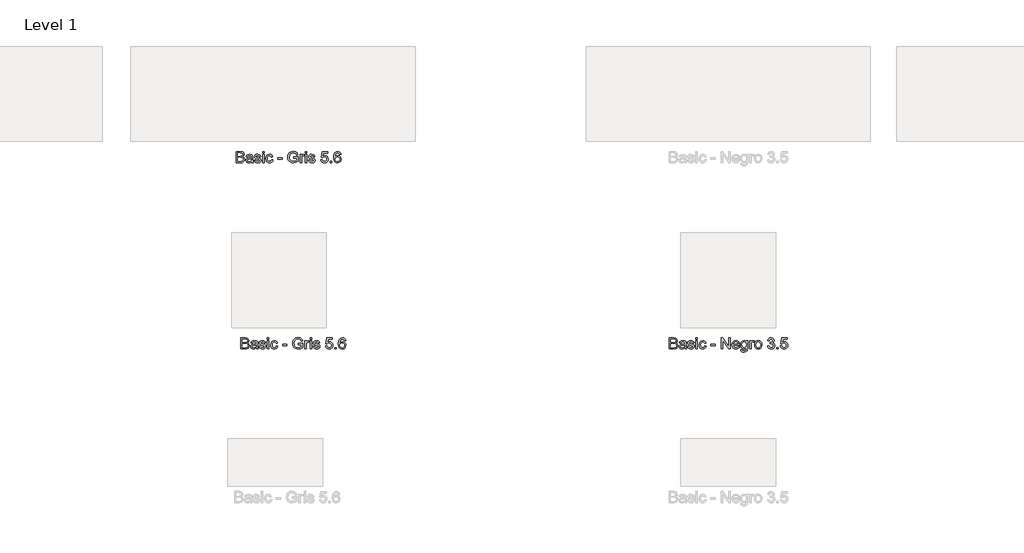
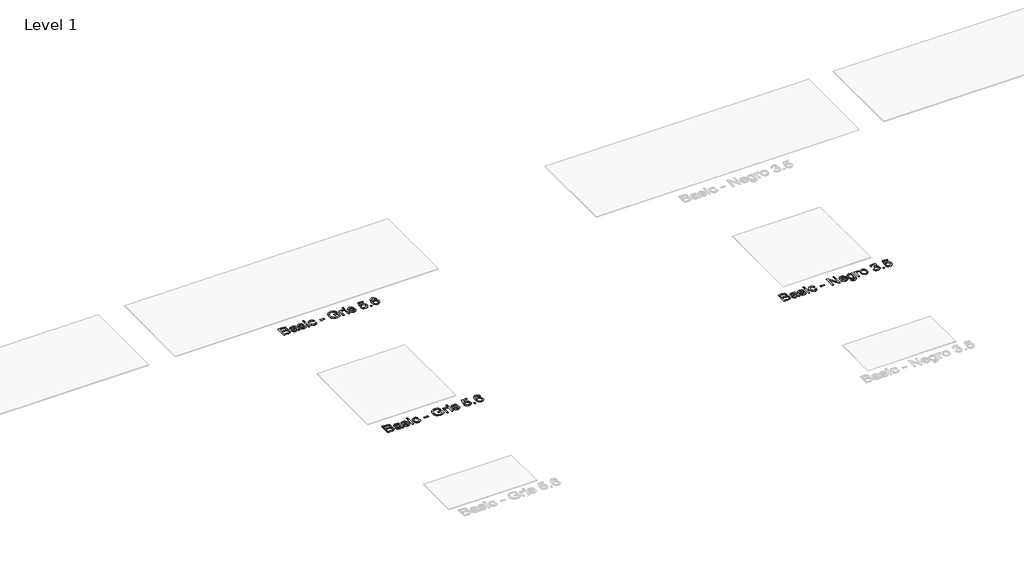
# One storey, part 59 of 80: 3 proxies.
"""IFC4 building model written with IfcOpenShell, lengths in millimetres."""

from ifc_helpers import new_model, si_unit, origin, origin_with_axes, place, context, project, spatial, polyline, outline, extrude, element, save

model = new_model("IFC4")

# Units and contexts
model_context = context("Model", 3, world=origin())
ifc_project = project(units=[si_unit("LENGTHUNIT", "METRE", prefix="MILLI")], contexts=[model_context])

# Site, building, storey
site = spatial("IfcSite", under=ifc_project)
building = spatial("IfcBuilding", under=site)
storey = spatial("IfcBuildingStorey", under=building, Name="Level 1", Elevation=0.0)

# Proxies
placement = place(None, origin())
element("IfcBuildingElementProxy", 1, Name="24\" Arial", ObjectType="24\" Arial", at=placement, inside=storey, context=model_context, shape_type="SweptSolid", body=[
    extrude(outline(polyline([(-15595.5848523, 19224.0250725), (-15595.5848523, 19342.1789187), (-15550.4983138, 19342.1789187), (-15528.416583, 19338.7029571), (-15515.3781215, 19328.0154571), (-15510.6617753, 19312.9000725), (-15514.6281215, 19299.0971879), (-15526.6136984, 19288.6404571), (-15512.0608138, 19277.6212264), (-15506.9694676, 19259.2462264), (-15510.4454292, 19243.3664187), (-15519.0560061, 19232.0587264), (-15531.9069676, 19226.0587264), (-15550.8444676, 19224.0250725), (-15595.5848523, 19224.0250725)]), holes=[polyline([(-15580.8156215, 19238.7943033), (-15550.52716, 19238.7943033), (-15539.5656215, 19239.3712264), (-15530.291583, 19242.5875725), (-15524.1473523, 19249.1500725), (-15521.7386984, 19259.1019956), (-15524.5656215, 19270.5827648), (-15533.7242753, 19277.4337264), (-15551.9694676, 19279.4096879), (-15580.8156215, 19279.4096879), (-15580.8156215, 19238.7943033)]), polyline([(-15580.8156215, 19294.1789187), (-15553.8444676, 19294.1789187), (-15538.0944676, 19295.4481494), (-15528.6185061, 19300.9144956), (-15525.4310061, 19310.5346879), (-15528.40216, 19320.1693033), (-15536.9117753, 19325.8664187), (-15555.8925446, 19327.4096879), (-15580.8156215, 19327.4096879), (-15580.8156215, 19294.1789187)])]), origin_with_axes(), (0.0, 0.0, 1.0), 2.0),
    extrude(outline(polyline([(-15433.1233138, 19235.1019956), (-15447.4454292, 19225.0923802), (-15463.2675446, 19222.1789187), (-15475.6100926, 19223.9313225), (-15484.71466, 19229.188534), (-15490.3288426, 19237.1717071), (-15492.2002369, 19247.1019956), (-15489.3733138, 19258.7846879), (-15481.9454292, 19267.2654571), (-15471.604083, 19272.111611), (-15458.8252369, 19274.3327648), (-15433.2098523, 19279.4096879), (-15433.1233138, 19282.6981494), (-15437.1906215, 19293.6019956), (-15453.5175446, 19297.8712264), (-15468.4598523, 19295.0298802), (-15475.5848523, 19284.9481494), (-15490.354083, 19286.7943033), (-15483.96466, 19301.2173802), (-15471.0992753, 19309.6693033), (-15451.6136984, 19312.6404571), (-15433.71466, 19310.0154571), (-15423.604083, 19303.424111), (-15419.0752369, 19293.4000725), (-15418.354083, 19280.4769956), (-15418.354083, 19262.1019956), (-15417.604083, 19236.4433417), (-15414.6617753, 19224.0250725), (-15429.4310061, 19224.0250725), (-15433.1233138, 19235.1019956)]), holes=[polyline([(-15433.1233138, 19264.6404571), (-15456.9502369, 19260.111611), (-15469.6569676, 19257.7173802), (-15475.4117753, 19253.8231494), (-15477.4310061, 19248.1404571), (-15473.0319676, 19240.1500725), (-15460.1233138, 19236.9481494), (-15445.1810061, 19240.4818033), (-15435.5463907, 19249.0346879), (-15433.2098523, 19260.4577648), (-15433.1233138, 19264.6404571)])]), origin_with_axes(), (0.0, 0.0, 1.0), 2.0),
    extrude(outline(polyline([(-15403.5848523, 19249.8712264), (-15388.8156215, 19251.7173802), (-15381.979083, 19240.7558417), (-15366.3156215, 19236.9481494), (-15351.2579292, 19240.438534), (-15346.354083, 19248.6308417), (-15351.2867753, 19255.2654571), (-15366.4886984, 19259.4769956), (-15388.729083, 19266.7029571), (-15398.4358138, 19275.1404571), (-15401.7386984, 19287.0539187), (-15399.0848523, 19298.0587264), (-15391.8444676, 19306.4673802), (-15382.4550446, 19310.8375725), (-15369.7483138, 19312.6404571), (-15351.77716, 19309.7414187), (-15340.354083, 19301.8952648), (-15335.27716, 19288.6404571), (-15350.0463907, 19286.7943033), (-15355.5992753, 19294.9433417), (-15368.5944676, 19297.8712264), (-15382.729083, 19295.0731494), (-15386.9694676, 19288.5539187), (-15385.2098523, 19284.2558417), (-15379.7002369, 19280.9962264), (-15366.979083, 19277.8519956), (-15345.3011984, 19270.9000725), (-15335.2338907, 19263.0250725), (-15331.5848523, 19250.188534), (-15335.8685061, 19236.0539187), (-15348.229083, 19225.799111), (-15366.5175446, 19222.1789187), (-15381.4093715, 19223.924111), (-15392.27716, 19229.1596879), (-15399.5319676, 19237.8279571), (-15403.5848523, 19249.8712264)])), origin_with_axes(), (0.0, 0.0, 1.0), 2.0),
    extrude(outline(polyline([(-15314.9694676, 19224.0250725), (-15314.9694676, 19310.7943033), (-15300.2002369, 19310.7943033), (-15300.2002369, 19224.0250725), (-15314.9694676, 19224.0250725)])), origin_with_axes(), (0.0, 0.0, 1.0), 2.0),
    extrude(outline(polyline([(-15314.9694676, 19327.4096879), (-15314.9694676, 19342.1789187), (-15300.2002369, 19342.1789187), (-15300.2002369, 19327.4096879), (-15314.9694676, 19327.4096879)])), origin_with_axes(), (0.0, 0.0, 1.0), 2.0),
    extrude(outline(polyline([(-15222.6617753, 19255.4096879), (-15207.8925446, 19253.563534), (-15212.010333, 19240.4277167), (-15219.7483138, 19230.501034), (-15230.3781215, 19224.2594475), (-15243.1713907, 19222.1789187), (-15258.8817273, 19225.0815629), (-15271.166583, 19233.7894956), (-15279.0956696, 19247.9205052), (-15281.7386984, 19267.0923802), (-15277.2242753, 19291.626034), (-15271.52716, 19300.8243514), (-15263.46466, 19307.3904571), (-15243.3733138, 19312.6404571), (-15230.8937465, 19310.8375725), (-15220.916583, 19305.4289187), (-15213.7591311, 19296.7029571), (-15209.7386984, 19284.9481494), (-15224.5079292, 19283.1019956), (-15231.3588907, 19294.1644956), (-15243.2579292, 19297.8712264), (-15252.8024003, 19296.0467071), (-15260.3781215, 19290.5731494), (-15265.3216311, 19281.1548802), (-15266.9694676, 19267.4962264), (-15265.3576888, 19253.6536783), (-15260.5223523, 19244.2029571), (-15253.0836503, 19238.7618514), (-15243.6617753, 19236.9481494), (-15229.7435061, 19241.4769956), (-15222.6617753, 19255.4096879)])), origin_with_axes(), (0.0, 0.0, 1.0), 2.0),
    extrude(outline(polyline([(-15156.2002369, 19259.1019956), (-15156.2002369, 19273.8712264), (-15110.0463907, 19273.8712264), (-15110.0463907, 19259.1019956), (-15156.2002369, 19259.1019956)])), origin_with_axes(), (0.0, 0.0, 1.0), 2.0),
    extrude(outline(polyline([(-14990.0463907, 19270.1789187), (-14990.0463907, 19284.9481494), (-14942.0463907, 19284.9481494), (-14942.0463907, 19240.7846879), (-14965.7435061, 19226.8519956), (-14990.7963907, 19222.1789187), (-15007.3649003, 19224.0358898), (-15022.33966, 19229.6068033), (-15034.7795638, 19238.6969475), (-15043.7435061, 19251.111611), (-15049.1629773, 19266.0034379), (-15050.9694676, 19282.5250725), (-15049.1701888, 19299.1656975), (-15043.7723523, 19314.6452648), (-15034.9995157, 19327.6296398), (-15023.0752369, 19336.7846879), (-15008.5511984, 19342.2149764), (-14991.979083, 19344.0250725), (-14968.8733138, 19339.8279571), (-14952.6761984, 19328.1452648), (-14943.7483138, 19308.6019956), (-14957.3636984, 19304.7654571), (-14964.0992753, 19318.424111), (-14975.6088907, 19326.299111), (-14992.2098523, 19329.2558417), (-15011.1185061, 19326.0683417), (-15023.9838907, 19317.7029571), (-15031.5848523, 19306.3231494), (-15036.2002369, 19283.1308417), (-15034.8120157, 19269.0070437), (-15030.6473523, 19257.3856494), (-15023.8324484, 19248.3495917), (-15014.4935061, 19241.9818033), (-14991.979083, 19236.9481494), (-14971.7723523, 19240.7414187), (-14956.8156215, 19248.8327648), (-14956.8156215, 19270.1789187), (-14990.0463907, 19270.1789187)])), origin_with_axes(), (0.0, 0.0, 1.0), 2.0),
    extrude(outline(polyline([(-14919.8925446, 19224.0250725), (-14919.8925446, 19310.7943033), (-14906.9694676, 19310.7943033), (-14906.9694676, 19297.9577648), (-14897.7963907, 19309.7846879), (-14888.5656215, 19312.6404571), (-14873.7386984, 19308.0827648), (-14878.6713907, 19294.8423802), (-14889.0560061, 19297.8712264), (-14897.4069676, 19294.9577648), (-14902.729083, 19286.8808417), (-14905.1233138, 19269.6308417), (-14905.1233138, 19224.0250725), (-14919.8925446, 19224.0250725)])), origin_with_axes(), (0.0, 0.0, 1.0), 2.0),
    extrude(outline(polyline([(-14864.5079292, 19327.4096879), (-14864.5079292, 19342.1789187), (-14849.7386984, 19342.1789187), (-14849.7386984, 19327.4096879), (-14864.5079292, 19327.4096879)])), origin_with_axes(), (0.0, 0.0, 1.0), 2.0),
    extrude(outline(polyline([(-14864.5079292, 19224.0250725), (-14864.5079292, 19310.7943033), (-14849.7386984, 19310.7943033), (-14849.7386984, 19224.0250725), (-14864.5079292, 19224.0250725)])), origin_with_axes(), (0.0, 0.0, 1.0), 2.0),
    extrude(outline(polyline([(-14833.1233138, 19249.8712264), (-14818.354083, 19251.7173802), (-14811.5175446, 19240.7558417), (-14795.854083, 19236.9481494), (-14780.7963907, 19240.438534), (-14775.8925446, 19248.6308417), (-14780.8252369, 19255.2654571), (-14796.02716, 19259.4769956), (-14818.2675446, 19266.7029571), (-14827.9742753, 19275.1404571), (-14831.27716, 19287.0539187), (-14828.6233138, 19298.0587264), (-14821.3829292, 19306.4673802), (-14811.9935061, 19310.8375725), (-14799.2867753, 19312.6404571), (-14781.3156215, 19309.7414187), (-14769.8925446, 19301.8952648), (-14764.8156215, 19288.6404571), (-14779.5848523, 19286.7943033), (-14785.1377369, 19294.9433417), (-14798.1329292, 19297.8712264), (-14812.2675446, 19295.0731494), (-14816.5079292, 19288.5539187), (-14814.7483138, 19284.2558417), (-14809.2386984, 19280.9962264), (-14796.5175446, 19277.8519956), (-14774.83966, 19270.9000725), (-14764.7723523, 19263.0250725), (-14761.1233138, 19250.188534), (-14765.4069676, 19236.0539187), (-14777.7675446, 19225.799111), (-14796.0560061, 19222.1789187), (-14810.947833, 19223.924111), (-14821.8156215, 19229.1596879), (-14829.0704292, 19237.8279571), (-14833.1233138, 19249.8712264)])), origin_with_axes(), (0.0, 0.0, 1.0), 2.0),
    extrude(outline(polyline([(-14702.0463907, 19255.4096879), (-14687.27716, 19257.2558417), (-14679.8348523, 19242.0394956), (-14664.40216, 19236.9481494), (-14653.8156215, 19238.7185821), (-14645.8829292, 19244.0298802), (-14640.9286023, 19252.2690629), (-14639.27716, 19262.8231494), (-14640.824035, 19272.7606494), (-14645.46466, 19280.361611), (-14653.2350926, 19285.1861302), (-14664.1713907, 19286.7943033), (-14677.1377369, 19284.2269956), (-14685.4310061, 19277.563534), (-14700.2002369, 19279.4096879), (-14687.27716, 19340.3327648), (-14630.0463907, 19340.3327648), (-14630.0463907, 19325.563534), (-14675.3348523, 19325.563534), (-14681.65216, 19293.0250725), (-14671.1016792, 19299.4289187), (-14660.0463907, 19301.563534), (-14646.2471119, 19298.9168994), (-14634.791583, 19290.9769956), (-14627.0788426, 19278.876034), (-14624.5079292, 19263.7462264), (-14626.822833, 19248.9769956), (-14633.7675446, 19236.3423802), (-14647.0656215, 19225.719784), (-14664.4598523, 19222.1789187), (-14678.9658619, 19224.454159), (-14690.5223523, 19231.2798802), (-14698.4442273, 19241.8628129), (-14702.0463907, 19255.4096879)])), origin_with_axes(), (0.0, 0.0, 1.0), 2.0),
    extrude(outline(polyline([(-14604.2002369, 19224.0250725), (-14604.2002369, 19238.7943033), (-14589.4310061, 19238.7943033), (-14589.4310061, 19224.0250725), (-14604.2002369, 19224.0250725)])), origin_with_axes(), (0.0, 0.0, 1.0), 2.0),
    extrude(outline(polyline([(-14489.7386984, 19310.7943033), (-14504.5079292, 19308.9481494), (-14510.104083, 19321.2654571), (-14516.8036023, 19325.8736302), (-14524.90216, 19327.4096879), (-14538.229083, 19323.8327648), (-14548.3108138, 19310.4048802), (-14552.5079292, 19284.0827648), (-14539.4838907, 19295.8664187), (-14523.3444676, 19299.7173802), (-14509.7002369, 19297.0851687), (-14498.2483138, 19289.188534), (-14490.4814869, 19277.1236302), (-14487.8925446, 19261.986611), (-14492.7675446, 19241.6068033), (-14506.1810061, 19227.1837264), (-14525.5367753, 19222.1789187), (-14542.292785, 19225.4962264), (-14555.6377369, 19235.4481494), (-14564.3673042, 19253.0154571), (-14567.27716, 19279.1789187), (-14564.0463907, 19308.594784), (-14554.354083, 19328.7077648), (-14541.12091, 19338.8111302), (-14523.979083, 19342.1789187), (-14511.0199484, 19340.094784), (-14500.6425446, 19333.8423802), (-14493.3733138, 19323.9120917), (-14489.7386984, 19310.7943033)]), holes=[polyline([(-14552.5079292, 19262.2173802), (-14549.08966, 19249.424111), (-14540.0031215, 19240.1356494), (-14526.6906215, 19236.9481494), (-14516.9442273, 19238.5995917), (-14509.2819676, 19243.5539187), (-14504.3168234, 19251.3423802), (-14502.6617753, 19261.4962264), (-14504.2951888, 19271.2426206), (-14509.1954292, 19278.674111), (-14516.9874965, 19283.3796398), (-14527.2963907, 19284.9481494), (-14537.0283619, 19283.3796398), (-14545.166583, 19278.674111), (-14550.6725926, 19271.422909), (-14552.5079292, 19262.2173802)])]), origin_with_axes(), (0.0, 0.0, 1.0), 2.0),
])
element("IfcBuildingElementProxy", 2, Name="24\" Arial", ObjectType="24\" Arial", at=placement, inside=storey, context=model_context, shape_type="SweptSolid", body=[
    extrude(outline(polyline([(-15545.9799633, 17259.8026123), (-15545.9799633, 17377.9564584), (-15500.8934248, 17377.9564584), (-15478.811694, 17374.4804969), (-15465.7732325, 17363.7929969), (-15461.0568864, 17348.6776123), (-15465.0232325, 17334.8747276), (-15477.0088094, 17324.4179969), (-15462.4559248, 17313.3987661), (-15457.3645787, 17295.0237661), (-15460.8405402, 17279.1439584), (-15469.4511171, 17267.8362661), (-15482.3020787, 17261.8362661), (-15501.2395787, 17259.8026123), (-15545.9799633, 17259.8026123)]), holes=[polyline([(-15531.2107325, 17274.571843), (-15500.922271, 17274.571843), (-15489.9607325, 17275.1487661), (-15480.686694, 17278.3651123), (-15474.5424633, 17284.9276123), (-15472.1338094, 17294.8795353), (-15474.9607325, 17306.3603046), (-15484.1193864, 17313.2112661), (-15502.3645787, 17315.1872276), (-15531.2107325, 17315.1872276), (-15531.2107325, 17274.571843)]), polyline([(-15531.2107325, 17329.9564584), (-15504.2395787, 17329.9564584), (-15488.4895787, 17331.2256892), (-15479.0136171, 17336.6920353), (-15475.8261171, 17346.3122276), (-15478.797271, 17355.946843), (-15487.3068864, 17361.6439584), (-15506.2876556, 17363.1872276), (-15531.2107325, 17363.1872276), (-15531.2107325, 17329.9564584)])]), origin_with_axes(), (0.0, 0.0, 1.0), 2.0),
    extrude(outline(polyline([(-15383.5184248, 17270.8795353), (-15397.8405402, 17260.8699199), (-15413.6626556, 17257.9564584), (-15426.0052037, 17259.7088623), (-15435.109771, 17264.9660738), (-15440.7239537, 17272.9492469), (-15442.5953479, 17282.8795353), (-15439.7684248, 17294.5622276), (-15432.3405402, 17303.0429969), (-15421.999194, 17307.8891507), (-15409.2203479, 17310.1103046), (-15383.6049633, 17315.1872276), (-15383.5184248, 17318.4756892), (-15387.5857325, 17329.3795353), (-15403.9126556, 17333.6487661), (-15418.8549633, 17330.8074199), (-15425.9799633, 17320.7256892), (-15440.749194, 17322.571843), (-15434.359771, 17336.9949199), (-15421.4943864, 17345.446843), (-15402.0088094, 17348.4179969), (-15384.109771, 17345.7929969), (-15373.999194, 17339.2016507), (-15369.4703479, 17329.1776123), (-15368.749194, 17316.2545353), (-15368.749194, 17297.8795353), (-15367.999194, 17272.2208815), (-15365.0568864, 17259.8026123), (-15379.8261171, 17259.8026123), (-15383.5184248, 17270.8795353)]), holes=[polyline([(-15383.5184248, 17300.4179969), (-15407.3453479, 17295.8891507), (-15420.0520787, 17293.4949199), (-15425.8068864, 17289.6006892), (-15427.8261171, 17283.9179969), (-15423.4270787, 17275.9276123), (-15410.5184248, 17272.7256892), (-15395.5761171, 17276.259343), (-15385.9415017, 17284.8122276), (-15383.6049633, 17296.2353046), (-15383.5184248, 17300.4179969)])]), origin_with_axes(), (0.0, 0.0, 1.0), 2.0),
    extrude(outline(polyline([(-15353.9799633, 17285.6487661), (-15339.2107325, 17287.4949199), (-15332.374194, 17276.5333815), (-15316.7107325, 17272.7256892), (-15301.6530402, 17276.2160738), (-15296.749194, 17284.4083815), (-15301.6818864, 17291.0429969), (-15316.8838094, 17295.2545353), (-15339.124194, 17302.4804969), (-15348.8309248, 17310.9179969), (-15352.1338094, 17322.8314584), (-15349.4799633, 17333.8362661), (-15342.2395787, 17342.2449199), (-15332.8501556, 17346.6151123), (-15320.1434248, 17348.4179969), (-15302.172271, 17345.5189584), (-15290.749194, 17337.6728046), (-15285.672271, 17324.4179969), (-15300.4415017, 17322.571843), (-15305.9943864, 17330.7208815), (-15318.9895787, 17333.6487661), (-15333.124194, 17330.8506892), (-15337.3645787, 17324.3314584), (-15335.6049633, 17320.0333815), (-15330.0953479, 17316.7737661), (-15317.374194, 17313.6295353), (-15295.6963094, 17306.6776123), (-15285.6290017, 17298.8026123), (-15281.9799633, 17285.9660738), (-15286.2636171, 17271.8314584), (-15298.624194, 17261.5766507), (-15316.9126556, 17257.9564584), (-15331.8044825, 17259.7016507), (-15342.672271, 17264.9372276), (-15349.9270787, 17273.6054969), (-15353.9799633, 17285.6487661)])), origin_with_axes(), (0.0, 0.0, 1.0), 2.0),
    extrude(outline(polyline([(-15265.3645787, 17259.8026123), (-15265.3645787, 17346.571843), (-15250.5953479, 17346.571843), (-15250.5953479, 17259.8026123), (-15265.3645787, 17259.8026123)])), origin_with_axes(), (0.0, 0.0, 1.0), 2.0),
    extrude(outline(polyline([(-15265.3645787, 17363.1872276), (-15265.3645787, 17377.9564584), (-15250.5953479, 17377.9564584), (-15250.5953479, 17363.1872276), (-15265.3645787, 17363.1872276)])), origin_with_axes(), (0.0, 0.0, 1.0), 2.0),
    extrude(outline(polyline([(-15173.0568864, 17291.1872276), (-15158.2876556, 17289.3410738), (-15162.405444, 17276.2052565), (-15170.1434248, 17266.2785738), (-15180.7732325, 17260.0369873), (-15193.5665017, 17257.9564584), (-15209.2768383, 17260.8591026), (-15221.561694, 17269.5670353), (-15229.4907806, 17283.6980449), (-15232.1338094, 17302.8699199), (-15227.6193864, 17327.4035738), (-15221.922271, 17336.6018911), (-15213.859771, 17343.1679969), (-15193.7684248, 17348.4179969), (-15181.2888575, 17346.6151123), (-15171.311694, 17341.2064584), (-15164.1542421, 17332.4804969), (-15160.1338094, 17320.7256892), (-15174.9030402, 17318.8795353), (-15181.7540017, 17329.9420353), (-15193.6530402, 17333.6487661), (-15203.1975114, 17331.8242469), (-15210.7732325, 17326.3506892), (-15215.7167421, 17316.9324199), (-15217.3645787, 17303.2737661), (-15215.7527998, 17289.431218), (-15210.9174633, 17279.9804969), (-15203.4787614, 17274.5393911), (-15194.0568864, 17272.7256892), (-15180.1386171, 17277.2545353), (-15173.0568864, 17291.1872276)])), origin_with_axes(), (0.0, 0.0, 1.0), 2.0),
    extrude(outline(polyline([(-15106.5953479, 17294.8795353), (-15106.5953479, 17309.6487661), (-15060.4415017, 17309.6487661), (-15060.4415017, 17294.8795353), (-15106.5953479, 17294.8795353)])), origin_with_axes(), (0.0, 0.0, 1.0), 2.0),
    extrude(outline(polyline([(-14940.4415017, 17305.9564584), (-14940.4415017, 17320.7256892), (-14892.4415017, 17320.7256892), (-14892.4415017, 17276.5622276), (-14916.1386171, 17262.6295353), (-14941.1915017, 17257.9564584), (-14957.7600114, 17259.8134296), (-14972.734771, 17265.384343), (-14985.1746748, 17274.4744873), (-14994.1386171, 17286.8891507), (-14999.5580883, 17301.7809776), (-15001.3645787, 17318.3026123), (-14999.5652998, 17334.9432373), (-14994.1674633, 17350.4228046), (-14985.3946267, 17363.4071796), (-14973.4703479, 17372.5622276), (-14958.9463094, 17377.9925161), (-14942.374194, 17379.8026123), (-14919.2684248, 17375.6054969), (-14903.0713094, 17363.9228046), (-14894.1434248, 17344.3795353), (-14907.7588094, 17340.5429969), (-14914.4943864, 17354.2016507), (-14926.0040017, 17362.0766507), (-14942.6049633, 17365.0333815), (-14961.5136171, 17361.8458815), (-14974.3790017, 17353.4804969), (-14981.9799633, 17342.1006892), (-14986.5953479, 17318.9083815), (-14985.2071267, 17304.7845834), (-14981.0424633, 17293.1631892), (-14974.2275594, 17284.1271315), (-14964.8886171, 17277.759343), (-14942.374194, 17272.7256892), (-14922.1674633, 17276.5189584), (-14907.2107325, 17284.6103046), (-14907.2107325, 17305.9564584), (-14940.4415017, 17305.9564584)])), origin_with_axes(), (0.0, 0.0, 1.0), 2.0),
    extrude(outline(polyline([(-14870.2876556, 17259.8026123), (-14870.2876556, 17346.571843), (-14857.3645787, 17346.571843), (-14857.3645787, 17333.7353046), (-14848.1915017, 17345.5622276), (-14838.9607325, 17348.4179969), (-14824.1338094, 17343.8603046), (-14829.0665017, 17330.6199199), (-14839.4511171, 17333.6487661), (-14847.8020787, 17330.7353046), (-14853.124194, 17322.6583815), (-14855.5184248, 17305.4083815), (-14855.5184248, 17259.8026123), (-14870.2876556, 17259.8026123)])), origin_with_axes(), (0.0, 0.0, 1.0), 2.0),
    extrude(outline(polyline([(-14814.9030402, 17363.1872276), (-14814.9030402, 17377.9564584), (-14800.1338094, 17377.9564584), (-14800.1338094, 17363.1872276), (-14814.9030402, 17363.1872276)])), origin_with_axes(), (0.0, 0.0, 1.0), 2.0),
    extrude(outline(polyline([(-14814.9030402, 17259.8026123), (-14814.9030402, 17346.571843), (-14800.1338094, 17346.571843), (-14800.1338094, 17259.8026123), (-14814.9030402, 17259.8026123)])), origin_with_axes(), (0.0, 0.0, 1.0), 2.0),
    extrude(outline(polyline([(-14783.5184248, 17285.6487661), (-14768.749194, 17287.4949199), (-14761.9126556, 17276.5333815), (-14746.249194, 17272.7256892), (-14731.1915017, 17276.2160738), (-14726.2876556, 17284.4083815), (-14731.2203479, 17291.0429969), (-14746.422271, 17295.2545353), (-14768.6626556, 17302.4804969), (-14778.3693864, 17310.9179969), (-14781.672271, 17322.8314584), (-14779.0184248, 17333.8362661), (-14771.7780402, 17342.2449199), (-14762.3886171, 17346.6151123), (-14749.6818864, 17348.4179969), (-14731.7107325, 17345.5189584), (-14720.2876556, 17337.6728046), (-14715.2107325, 17324.4179969), (-14729.9799633, 17322.571843), (-14735.5328479, 17330.7208815), (-14748.5280402, 17333.6487661), (-14762.6626556, 17330.8506892), (-14766.9030402, 17324.3314584), (-14765.1434248, 17320.0333815), (-14759.6338094, 17316.7737661), (-14746.9126556, 17313.6295353), (-14725.234771, 17306.6776123), (-14715.1674633, 17298.8026123), (-14711.5184248, 17285.9660738), (-14715.8020787, 17271.8314584), (-14728.1626556, 17261.5766507), (-14746.4511171, 17257.9564584), (-14761.342944, 17259.7016507), (-14772.2107325, 17264.9372276), (-14779.4655402, 17273.6054969), (-14783.5184248, 17285.6487661)])), origin_with_axes(), (0.0, 0.0, 1.0), 2.0),
    extrude(outline(polyline([(-14652.4415017, 17291.1872276), (-14637.672271, 17293.0333815), (-14630.2299633, 17277.8170353), (-14614.797271, 17272.7256892), (-14604.2107325, 17274.4961219), (-14596.2780402, 17279.8074199), (-14591.3237133, 17288.0466026), (-14589.672271, 17298.6006892), (-14591.219146, 17308.5381892), (-14595.859771, 17316.1391507), (-14603.6302037, 17320.9636699), (-14614.5665017, 17322.571843), (-14627.5328479, 17320.0045353), (-14635.8261171, 17313.3410738), (-14650.5953479, 17315.1872276), (-14637.672271, 17376.1103046), (-14580.4415017, 17376.1103046), (-14580.4415017, 17361.3410738), (-14625.7299633, 17361.3410738), (-14632.047271, 17328.8026123), (-14621.4967902, 17335.2064584), (-14610.4415017, 17337.3410738), (-14596.6422229, 17334.6944392), (-14585.186694, 17326.7545353), (-14577.4739537, 17314.6535738), (-14574.9030402, 17299.5237661), (-14577.217944, 17284.7545353), (-14584.1626556, 17272.1199199), (-14597.4607325, 17261.4973238), (-14614.8549633, 17257.9564584), (-14629.3609729, 17260.2316988), (-14640.9174633, 17267.0574199), (-14648.8393383, 17277.6403526), (-14652.4415017, 17291.1872276)])), origin_with_axes(), (0.0, 0.0, 1.0), 2.0),
    extrude(outline(polyline([(-14554.5953479, 17259.8026123), (-14554.5953479, 17274.571843), (-14539.8261171, 17274.571843), (-14539.8261171, 17259.8026123), (-14554.5953479, 17259.8026123)])), origin_with_axes(), (0.0, 0.0, 1.0), 2.0),
    extrude(outline(polyline([(-14440.1338094, 17346.571843), (-14454.9030402, 17344.7256892), (-14460.499194, 17357.0429969), (-14467.1987133, 17361.6511699), (-14475.297271, 17363.1872276), (-14488.624194, 17359.6103046), (-14498.7059248, 17346.1824199), (-14502.9030402, 17319.8603046), (-14489.8790017, 17331.6439584), (-14473.7395787, 17335.4949199), (-14460.0953479, 17332.8627084), (-14448.6434248, 17324.9660738), (-14440.8765979, 17312.9011699), (-14438.2876556, 17297.7641507), (-14443.1626556, 17277.384343), (-14456.5761171, 17262.9612661), (-14475.9318864, 17257.9564584), (-14492.687896, 17261.2737661), (-14506.0328479, 17271.2256892), (-14514.7624152, 17288.7929969), (-14517.672271, 17314.9564584), (-14514.4415017, 17344.3723238), (-14504.749194, 17364.4853046), (-14491.516021, 17374.5886699), (-14474.374194, 17377.9564584), (-14461.4150594, 17375.8723238), (-14451.0376556, 17369.6199199), (-14443.7684248, 17359.6896315), (-14440.1338094, 17346.571843)]), holes=[polyline([(-14502.9030402, 17297.9949199), (-14499.484771, 17285.2016507), (-14490.3982325, 17275.9131892), (-14477.0857325, 17272.7256892), (-14467.3393383, 17274.3771315), (-14459.6770787, 17279.3314584), (-14454.7119344, 17287.1199199), (-14453.0568864, 17297.2737661), (-14454.6902998, 17307.0201603), (-14459.5905402, 17314.4516507), (-14467.3826075, 17319.1571796), (-14477.6915017, 17320.7256892), (-14487.4234729, 17319.1571796), (-14495.561694, 17314.4516507), (-14501.0677037, 17307.2004488), (-14502.9030402, 17297.9949199)])]), origin_with_axes(), (0.0, 0.0, 1.0), 2.0),
])
element("IfcBuildingElementProxy", 3, Name="24\" Arial", ObjectType="24\" Arial", at=placement, inside=storey, context=model_context, shape_type="SweptSolid", body=[
    extrude(outline(polyline([(-11026.7684156, 17259.8026123), (-11026.7684156, 17377.9564584), (-10981.6818771, 17377.9564584), (-10959.6001464, 17374.4804969), (-10946.5616848, 17363.7929969), (-10941.8453387, 17348.6776123), (-10945.8116848, 17334.8747276), (-10957.7972617, 17324.4179969), (-10943.2443771, 17313.3987661), (-10938.153031, 17295.0237661), (-10941.6289925, 17279.1439584), (-10950.2395694, 17267.8362661), (-10963.090531, 17261.8362661), (-10982.028031, 17259.8026123), (-11026.7684156, 17259.8026123)]), holes=[polyline([(-11011.9991848, 17274.571843), (-10981.7107233, 17274.571843), (-10970.7491848, 17275.1487661), (-10961.4751464, 17278.3651123), (-10955.3309156, 17284.9276123), (-10952.9222617, 17294.8795353), (-10955.7491848, 17306.3603046), (-10964.9078387, 17313.2112661), (-10983.153031, 17315.1872276), (-11011.9991848, 17315.1872276), (-11011.9991848, 17274.571843)]), polyline([(-11011.9991848, 17329.9564584), (-10985.028031, 17329.9564584), (-10969.278031, 17331.2256892), (-10959.8020694, 17336.6920353), (-10956.6145694, 17346.3122276), (-10959.5857233, 17355.946843), (-10968.0953387, 17361.6439584), (-10987.0761079, 17363.1872276), (-11011.9991848, 17363.1872276), (-11011.9991848, 17329.9564584)])]), origin_with_axes(), (0.0, 0.0, 1.0), 2.0),
    extrude(outline(polyline([(-10864.3068771, 17270.8795353), (-10878.6289925, 17260.8699199), (-10894.4511079, 17257.9564584), (-10906.793656, 17259.7088623), (-10915.8982233, 17264.9660738), (-10921.512406, 17272.9492469), (-10923.3838002, 17282.8795353), (-10920.5568771, 17294.5622276), (-10913.1289925, 17303.0429969), (-10902.7876464, 17307.8891507), (-10890.0088002, 17310.1103046), (-10864.3934156, 17315.1872276), (-10864.3068771, 17318.4756892), (-10868.3741848, 17329.3795353), (-10884.7011079, 17333.6487661), (-10899.6434156, 17330.8074199), (-10906.7684156, 17320.7256892), (-10921.5376464, 17322.571843), (-10915.1482233, 17336.9949199), (-10902.2828387, 17345.446843), (-10882.7972617, 17348.4179969), (-10864.8982233, 17345.7929969), (-10854.7876464, 17339.2016507), (-10850.2588002, 17329.1776123), (-10849.5376464, 17316.2545353), (-10849.5376464, 17297.8795353), (-10848.7876464, 17272.2208815), (-10845.8453387, 17259.8026123), (-10860.6145694, 17259.8026123), (-10864.3068771, 17270.8795353)]), holes=[polyline([(-10864.3068771, 17300.4179969), (-10888.1338002, 17295.8891507), (-10900.840531, 17293.4949199), (-10906.5953387, 17289.6006892), (-10908.6145694, 17283.9179969), (-10904.215531, 17275.9276123), (-10891.3068771, 17272.7256892), (-10876.3645694, 17276.259343), (-10866.7299541, 17284.8122276), (-10864.3934156, 17296.2353046), (-10864.3068771, 17300.4179969)])]), origin_with_axes(), (0.0, 0.0, 1.0), 2.0),
    extrude(outline(polyline([(-10834.7684156, 17285.6487661), (-10819.9991848, 17287.4949199), (-10813.1626464, 17276.5333815), (-10797.4991848, 17272.7256892), (-10782.4414925, 17276.2160738), (-10777.5376464, 17284.4083815), (-10782.4703387, 17291.0429969), (-10797.6722617, 17295.2545353), (-10819.9126464, 17302.4804969), (-10829.6193771, 17310.9179969), (-10832.9222617, 17322.8314584), (-10830.2684156, 17333.8362661), (-10823.028031, 17342.2449199), (-10813.6386079, 17346.6151123), (-10800.9318771, 17348.4179969), (-10782.9607233, 17345.5189584), (-10771.5376464, 17337.6728046), (-10766.4607233, 17324.4179969), (-10781.2299541, 17322.571843), (-10786.7828387, 17330.7208815), (-10799.778031, 17333.6487661), (-10813.9126464, 17330.8506892), (-10818.153031, 17324.3314584), (-10816.3934156, 17320.0333815), (-10810.8838002, 17316.7737661), (-10798.1626464, 17313.6295353), (-10776.4847617, 17306.6776123), (-10766.4174541, 17298.8026123), (-10762.7684156, 17285.9660738), (-10767.0520694, 17271.8314584), (-10779.4126464, 17261.5766507), (-10797.7011079, 17257.9564584), (-10812.5929348, 17259.7016507), (-10823.4607233, 17264.9372276), (-10830.715531, 17273.6054969), (-10834.7684156, 17285.6487661)])), origin_with_axes(), (0.0, 0.0, 1.0), 2.0),
    extrude(outline(polyline([(-10746.153031, 17259.8026123), (-10746.153031, 17346.571843), (-10731.3838002, 17346.571843), (-10731.3838002, 17259.8026123), (-10746.153031, 17259.8026123)])), origin_with_axes(), (0.0, 0.0, 1.0), 2.0),
    extrude(outline(polyline([(-10746.153031, 17363.1872276), (-10746.153031, 17377.9564584), (-10731.3838002, 17377.9564584), (-10731.3838002, 17363.1872276), (-10746.153031, 17363.1872276)])), origin_with_axes(), (0.0, 0.0, 1.0), 2.0),
    extrude(outline(polyline([(-10653.8453387, 17291.1872276), (-10639.0761079, 17289.3410738), (-10643.1938964, 17276.2052565), (-10650.9318771, 17266.2785738), (-10661.5616848, 17260.0369873), (-10674.3549541, 17257.9564584), (-10690.0652906, 17260.8591026), (-10702.3501464, 17269.5670353), (-10710.2792329, 17283.6980449), (-10712.9222617, 17302.8699199), (-10708.4078387, 17327.4035738), (-10702.7107233, 17336.6018911), (-10694.6482233, 17343.1679969), (-10674.5568771, 17348.4179969), (-10662.0773098, 17346.6151123), (-10652.1001464, 17341.2064584), (-10644.9426944, 17332.4804969), (-10640.9222617, 17320.7256892), (-10655.6914925, 17318.8795353), (-10662.5424541, 17329.9420353), (-10674.4414925, 17333.6487661), (-10683.9859637, 17331.8242469), (-10691.5616848, 17326.3506892), (-10696.5051944, 17316.9324199), (-10698.153031, 17303.2737661), (-10696.5412521, 17289.431218), (-10691.7059156, 17279.9804969), (-10684.2672137, 17274.5393911), (-10674.8453387, 17272.7256892), (-10660.9270694, 17277.2545353), (-10653.8453387, 17291.1872276)])), origin_with_axes(), (0.0, 0.0, 1.0), 2.0),
    extrude(outline(polyline([(-10587.3838002, 17294.8795353), (-10587.3838002, 17309.6487661), (-10541.2299541, 17309.6487661), (-10541.2299541, 17294.8795353), (-10587.3838002, 17294.8795353)])), origin_with_axes(), (0.0, 0.0, 1.0), 2.0),
    extrude(outline(polyline([(-10476.6145694, 17259.8026123), (-10476.6145694, 17377.9564584), (-10460.8068771, 17377.9564584), (-10399.0761079, 17284.3506892), (-10399.0761079, 17377.9564584), (-10384.3068771, 17377.9564584), (-10384.3068771, 17259.8026123), (-10400.1145694, 17259.8026123), (-10461.8453387, 17353.4372276), (-10461.8453387, 17259.8026123), (-10476.6145694, 17259.8026123)])), origin_with_axes(), (0.0, 0.0, 1.0), 2.0),
    extrude(outline(polyline([(-10299.5568771, 17285.6487661), (-10285.0761079, 17283.8026123), (-10290.293656, 17272.8915546), (-10298.6193771, 17264.7353046), (-10309.8657714, 17259.6511699), (-10323.8453387, 17257.9564584), (-10341.1746656, 17260.8807373), (-10354.5088002, 17269.6535738), (-10363.0112041, 17283.7052565), (-10365.8453387, 17302.4660738), (-10362.9823579, 17321.8579007), (-10354.3934156, 17336.3603046), (-10341.2395694, 17345.4035738), (-10324.6818771, 17348.4179969), (-10308.6398098, 17345.4107853), (-10295.8213002, 17336.3891507), (-10287.4162521, 17321.915593), (-10284.6145694, 17302.5526123), (-10284.7011079, 17298.571843), (-10351.0761079, 17298.571843), (-10348.5196175, 17287.5165546), (-10342.5809156, 17279.3891507), (-10334.0100021, 17274.3915546), (-10323.5568771, 17272.7256892), (-10309.0761079, 17275.8122276), (-10299.5568771, 17285.6487661)]), holes=[polyline([(-10351.0761079, 17313.3410738), (-10299.3838002, 17313.3410738), (-10305.2972617, 17326.7256892), (-10313.9078387, 17331.9179969), (-10324.7395694, 17333.6487661), (-10342.9270694, 17328.1247276), (-10348.6494252, 17321.6667949), (-10351.0761079, 17313.3410738)])]), origin_with_axes(), (0.0, 0.0, 1.0), 2.0),
    extrude(outline(polyline([(-10273.5376464, 17252.4179969), (-10258.7684156, 17250.571843), (-10253.9799541, 17242.7833815), (-10239.6434156, 17239.4949199), (-10224.528031, 17243.2160738), (-10217.3164925, 17253.6583815), (-10216.3068771, 17270.8795353), (-10226.7059156, 17262.571843), (-10239.3838002, 17259.8026123), (-10254.6109637, 17263.0261699), (-10265.965531, 17272.696843), (-10273.0292329, 17286.8747276), (-10275.3838002, 17303.6199199), (-10271.1578387, 17326.509343), (-10258.9270694, 17342.7064584), (-10240.1049541, 17348.4179969), (-10226.9294733, 17345.1872276), (-10216.3068771, 17335.4949199), (-10216.3068771, 17346.571843), (-10201.5376464, 17346.571843), (-10201.5376464, 17271.6583815), (-10205.5761079, 17242.9708815), (-10218.3693771, 17229.6295353), (-10239.9318771, 17224.7256892), (-10253.6734637, 17226.4528526), (-10264.4943771, 17231.634343), (-10271.4354829, 17240.2845834), (-10273.5376464, 17252.4179969)]), holes=[polyline([(-10260.6145694, 17304.6295353), (-10259.0388483, 17291.0826603), (-10254.3116848, 17281.7689584), (-10247.2047137, 17276.3711219), (-10238.4895694, 17274.571843), (-10229.8393291, 17276.3603046), (-10222.6963002, 17281.7256892), (-10217.9042329, 17290.9204007), (-10216.3068771, 17304.196843), (-10217.9511079, 17317.0009296), (-10222.8838002, 17326.2208815), (-10230.1313964, 17331.7917949), (-10238.7203387, 17333.6487661), (-10247.1542329, 17331.8206411), (-10254.2251464, 17326.3362661), (-10259.0172137, 17317.2533334), (-10260.6145694, 17304.6295353)])]), origin_with_axes(), (0.0, 0.0, 1.0), 2.0),
    extrude(outline(polyline([(-10179.3838002, 17259.8026123), (-10179.3838002, 17346.571843), (-10166.4607233, 17346.571843), (-10166.4607233, 17333.7353046), (-10157.2876464, 17345.5622276), (-10148.0568771, 17348.4179969), (-10133.2299541, 17343.8603046), (-10138.1626464, 17330.6199199), (-10148.5472617, 17333.6487661), (-10156.8982233, 17330.7353046), (-10162.2203387, 17322.6583815), (-10164.6145694, 17305.4083815), (-10164.6145694, 17259.8026123), (-10179.3838002, 17259.8026123)])), origin_with_axes(), (0.0, 0.0, 1.0), 2.0),
    extrude(outline(polyline([(-10127.6914925, 17303.1872276), (-10124.496781, 17324.1079007), (-10114.9126464, 17338.8122276), (-10103.0713002, 17346.0165546), (-10088.8934156, 17348.4179969), (-10073.3777906, 17345.493718), (-10060.9847617, 17336.7208815), (-10052.8609637, 17322.7917949), (-10050.153031, 17304.3987661), (-10054.9414925, 17278.1199199), (-10068.8886079, 17263.2497276), (-10088.8934156, 17257.9564584), (-10104.5965406, 17260.8699199), (-10116.9751464, 17269.6103046), (-10125.012406, 17283.8314584), (-10127.6914925, 17303.1872276)]), holes=[polyline([(-10112.9222617, 17303.2160738), (-10111.2131271, 17289.8494873), (-10106.0857233, 17280.3266507), (-10098.3693771, 17274.6259296), (-10088.8934156, 17272.7256892), (-10079.4607233, 17274.6367469), (-10071.7588002, 17280.3699199), (-10066.6313964, 17290.0189584), (-10064.9222617, 17303.6776123), (-10066.6422137, 17316.6547757), (-10071.8020694, 17326.0478046), (-10079.5148098, 17331.7485257), (-10088.8934156, 17333.6487661), (-10098.3693771, 17331.7557373), (-10106.0857233, 17326.0766507), (-10111.2131271, 17316.5754488), (-10112.9222617, 17303.2160738)])]), origin_with_axes(), (0.0, 0.0, 1.0), 2.0),
    extrude(outline(polyline([(-9991.0761079, 17291.1872276), (-9976.3068771, 17293.0333815), (-9968.1578387, 17277.4853046), (-9952.9126464, 17272.7256892), (-9942.7876464, 17274.3627084), (-9934.9703387, 17279.2737661), (-9929.9727425, 17286.6006892), (-9928.3068771, 17295.4853046), (-9929.9583194, 17303.9191988), (-9934.9126464, 17310.759343), (-9942.4126464, 17315.2917949), (-9951.7011079, 17316.8026123), (-9962.0568771, 17315.1872276), (-9960.4126464, 17329.9564584), (-9958.0472617, 17329.7833815), (-9941.2876464, 17334.0237661), (-9935.7059156, 17339.4035738), (-9933.8453387, 17347.0622276), (-9939.2395694, 17358.6151123), (-9953.1434156, 17363.1872276), (-9967.2203387, 17358.571843), (-9974.4607233, 17344.7256892), (-9989.2299541, 17346.571843), (-9984.8813964, 17359.8338623), (-9977.1434156, 17369.7353046), (-9966.5568771, 17375.9011699), (-9953.6626464, 17377.9564584), (-9935.8501464, 17373.9035738), (-9923.3886079, 17362.8266507), (-9919.0761079, 17347.9276123), (-9923.1722617, 17334.3122276), (-9935.2876464, 17324.5333815), (-9926.0424541, 17320.7978046), (-9919.1914925, 17314.4372276), (-9914.9511079, 17305.7978046), (-9913.5376464, 17295.2256892), (-9916.3645694, 17280.8314584), (-9924.8453387, 17268.8026123), (-9937.6458194, 17260.6679969), (-9953.4318771, 17257.9564584), (-9967.7107233, 17260.2713623), (-9979.3357233, 17267.2160738), (-9987.4198579, 17277.8386699), (-9991.0761079, 17291.1872276)])), origin_with_axes(), (0.0, 0.0, 1.0), 2.0),
    extrude(outline(polyline([(-9893.2299541, 17259.8026123), (-9893.2299541, 17274.571843), (-9878.4607233, 17274.571843), (-9878.4607233, 17259.8026123), (-9893.2299541, 17259.8026123)])), origin_with_axes(), (0.0, 0.0, 1.0), 2.0),
    extrude(outline(polyline([(-9854.4607233, 17291.1872276), (-9839.6914925, 17293.0333815), (-9832.2491848, 17277.8170353), (-9816.8164925, 17272.7256892), (-9806.2299541, 17274.4961219), (-9798.2972617, 17279.8074199), (-9793.3429348, 17288.0466026), (-9791.6914925, 17298.6006892), (-9793.2383675, 17308.5381892), (-9797.8789925, 17316.1391507), (-9805.6494252, 17320.9636699), (-9816.5857233, 17322.571843), (-9829.5520694, 17320.0045353), (-9837.8453387, 17313.3410738), (-9852.6145694, 17315.1872276), (-9839.6914925, 17376.1103046), (-9782.4607233, 17376.1103046), (-9782.4607233, 17361.3410738), (-9827.7491848, 17361.3410738), (-9834.0664925, 17328.8026123), (-9823.5160117, 17335.2064584), (-9812.4607233, 17337.3410738), (-9798.6614444, 17334.6944392), (-9787.2059156, 17326.7545353), (-9779.4931752, 17314.6535738), (-9776.9222617, 17299.5237661), (-9779.2371656, 17284.7545353), (-9786.1818771, 17272.1199199), (-9799.4799541, 17261.4973238), (-9816.8741848, 17257.9564584), (-9831.3801944, 17260.2316988), (-9842.9366848, 17267.0574199), (-9850.8585598, 17277.6403526), (-9854.4607233, 17291.1872276)])), origin_with_axes(), (0.0, 0.0, 1.0), 2.0),
])

save(model, "model.ifc")
